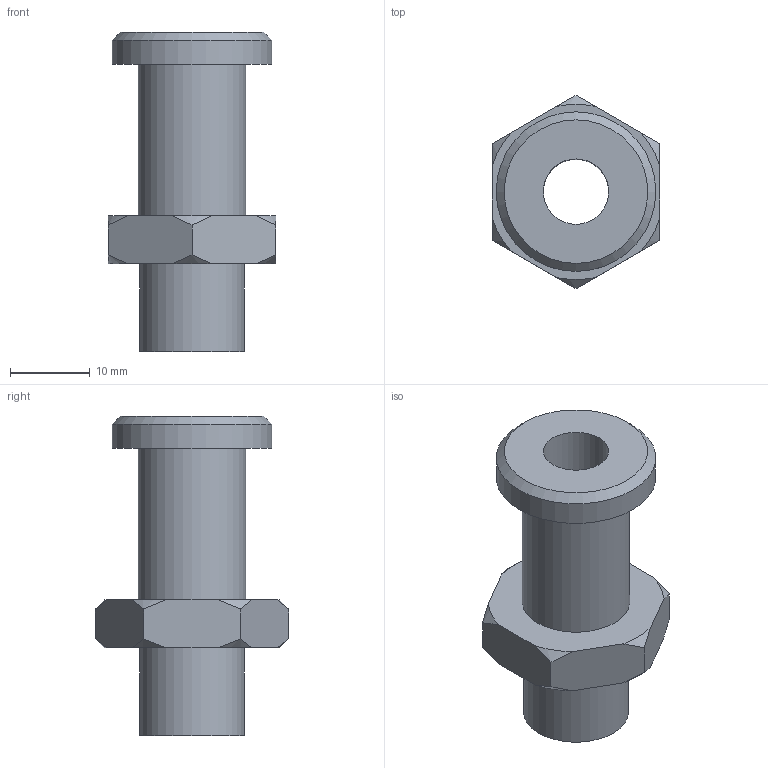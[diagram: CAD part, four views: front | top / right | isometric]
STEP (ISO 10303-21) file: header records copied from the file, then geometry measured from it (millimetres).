
FILE_DESCRIPTION(('STEP AP214'),'1');
FILE_NAME('CA.08.09.024.stp','2019-04-18T06:04:16',(' '),(' '),'Spatial InterOp 3D',' ',' ');
FILE_SCHEMA(('AUTOMOTIVE_DESIGN { 1 0 10303 214 1 1 1 1 }'));
Length unit declared in the file: metre
Products named in the file (1): CA.08.09.024
Bounding box: 21 x 24.25 x 40 mm (x, y, z)
Volume: 5609.7 mm3; surface area: 3918.9 mm2
Topology: 1 solids, 1 shells, 28 faces, 69 edges, 46 vertices
Faces by surface type: cone 13, plane 11, cylinder 4
Full cylindrical faces by diameter (mm): 8.2 x1, 13.157 x1, 13.5 x1, 20 x1
Entity records: 1224 total; most frequent: CARTESIAN_POINT 365, ORIENTED_EDGE 126, DIRECTION 118, EDGE_CURVE 63, AXIS2_PLACEMENT_3D 50, VERTEX_POINT 45, EDGE_LOOP 38, FACE_OUTER_BOUND 32
